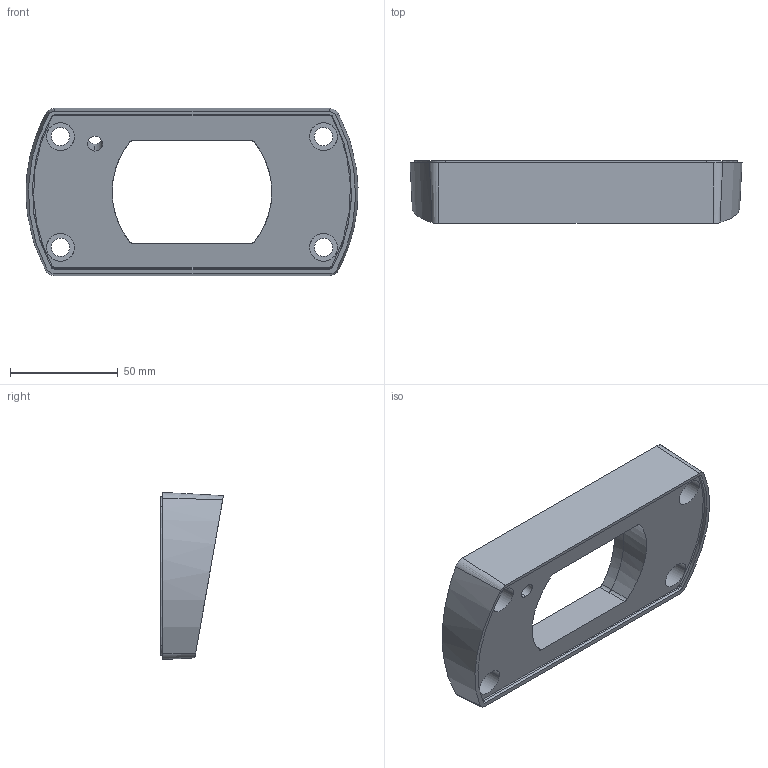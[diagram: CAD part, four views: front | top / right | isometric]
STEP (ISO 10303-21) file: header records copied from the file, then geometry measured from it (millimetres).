
FILE_DESCRIPTION (( 'STEP AP203' ), '1' );
FILE_NAME ('TP.060.6741.STEP', '2026-09-30T09:56:56', ( '' ), ( '' ), 'SwSTEP 2.0', 'SolidWorks 2015', '' );
FILE_SCHEMA (( 'CONFIG_CONTROL_DESIGN' ));
Length unit declared in the file: millimetre
Products named in the file (2): TP.060.6741
Assembly tree (1 placements, depth 2):
  TP.060.6741
    TP.060.6741
Bounding box: 154.3 x 29.2 x 77.66 mm (x, y, z)
Volume: 153150.7 mm3; surface area: 34280.5 mm2
Topology: 1 solids, 1 shells, 87 faces, 213 edges, 138 vertices
Faces by surface type: bspline 36, cylinder 31, plane 20
Entity records: 4235 total; most frequent: CARTESIAN_POINT 2211, ORIENTED_EDGE 426, DIRECTION 282, EDGE_CURVE 213, VERTEX_POINT 138, EDGE_LOOP 109, AXIS2_PLACEMENT_3D 98, FACE_OUTER_BOUND 87
